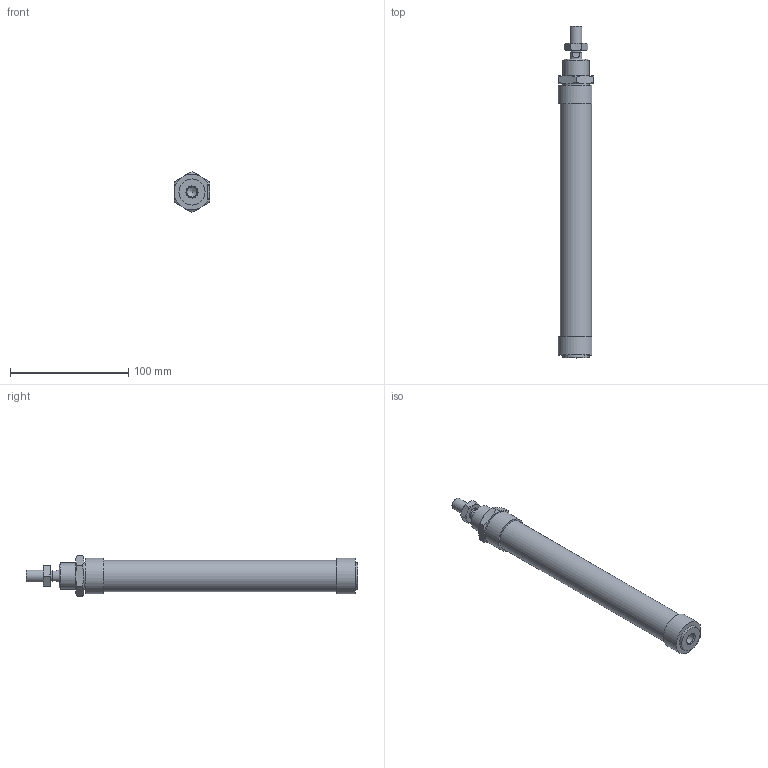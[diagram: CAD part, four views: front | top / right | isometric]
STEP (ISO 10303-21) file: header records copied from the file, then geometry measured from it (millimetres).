
FILE_DESCRIPTION((''),'2;1');
FILE_NAME('I:\Area Tecnica\Disegni\VARIE-3D\Componenti\1280\1281_##_####_#\1281_25_0160.iam.stp','2009-06-04T09:40:27',(''),(''),'Autodesk Inventor 2010','Autodesk Inventor 2010','');
FILE_SCHEMA(('AUTOMOTIVE_DESIGN { 1 0 10303 214 1 1 1 1 }'));
Length unit declared in the file: millimetre
Products named in the file (5): 1281_25_0160; C1281_25_160; S1280_25_160; 1200_25_05; 1200_25_06
Assembly tree (4 placements, depth 2):
  1281_25_0160
    C1281_25_160
    S1280_25_160
    1200_25_05
    1200_25_06
Bounding box: 30 x 280.5 x 34.64 mm (x, y, z)
Volume: 143985.2 mm3; surface area: 39522.9 mm2
Topology: 4 solids, 4 shells, 86 faces, 185 edges, 112 vertices
Faces by surface type: plane 36, cone 26, bspline 15, cylinder 9
Full cylindrical faces by diameter (mm): 8.8 x1, 10 x3, 22 x2, 26.5 x1
Entity records: 2529 total; most frequent: CARTESIAN_POINT 690, DIRECTION 332, ORIENTED_EDGE 310, EDGE_CURVE 155, AXIS2_PLACEMENT_3D 148, EDGE_LOOP 120, VERTEX_POINT 103, STYLED_ITEM 90
